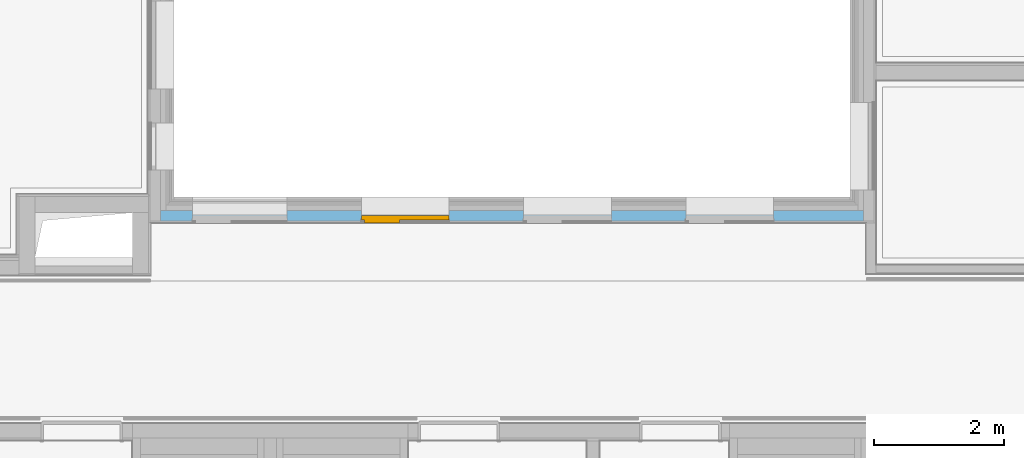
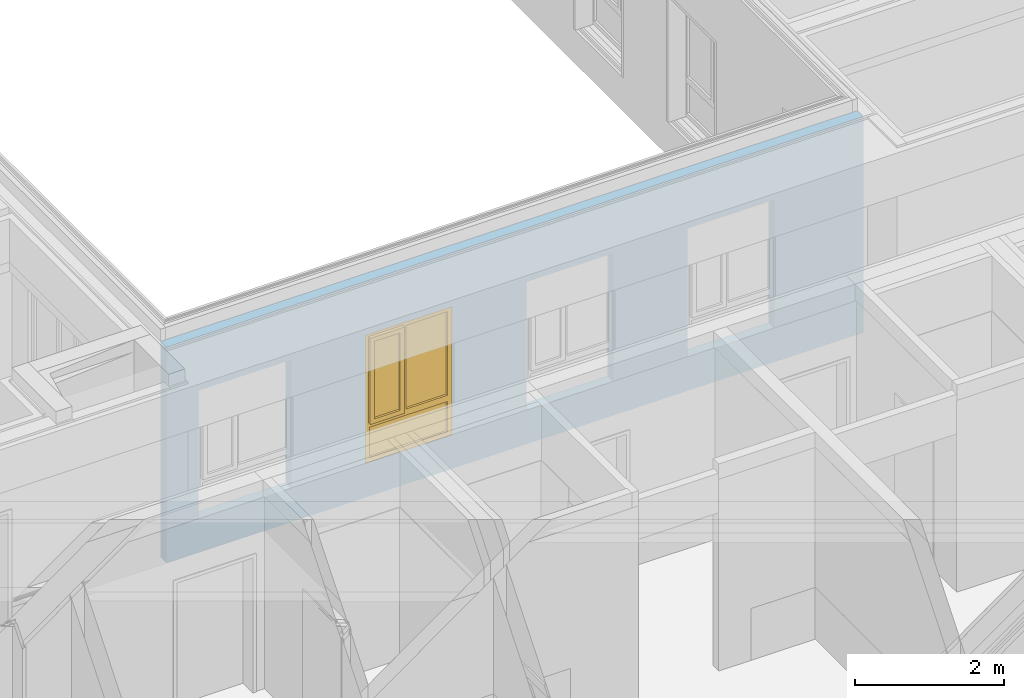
# One storey, part 125 of 222: 1 window, 4 openings, plus 1 element that does not belong to this part.
"""IFC4 building model written with IfcOpenShell, lengths in metres."""

from ifc_helpers import new_model, entity, si_unit, converted_unit, derived_unit, frame, frame_2d, origin, origin_with_axes, place, context, subcontext, project, spatial, polyline, rectangle, outline, extrude, closed_shell, open_shell, surface_model, source, transform, mapped, material, element, fill, save


model = new_model("IFC4")

# Units and contexts
model_context = context("Model", 3, precision=1e-05, world=origin())
body_context = subcontext(model_context, "Body", "Model", "MODEL_VIEW")
ifc_project = project(units=[si_unit("LENGTHUNIT", "METRE"), si_unit("AREAUNIT", "SQUARE_METRE"), si_unit("VOLUMEUNIT", "CUBIC_METRE"), si_unit("MASSUNIT", "GRAM", prefix="KILO"), converted_unit("PLANEANGLEUNIT", "DEGREE", entity("IfcPlaneAngleMeasure", 0.0174532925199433), si_unit("PLANEANGLEUNIT", "RADIAN"), dimensions=[0, 0, 0, 0, 0, 0, 0]), derived_unit("THERMALTRANSMITTANCEUNIT", [(si_unit("POWERUNIT", "WATT"), 1), (si_unit("THERMODYNAMICTEMPERATUREUNIT", "KELVIN"), -1), (si_unit("LENGTHUNIT", "METRE"), -2)]), derived_unit("VOLUMETRICFLOWRATEUNIT", [(si_unit("LENGTHUNIT", "METRE"), 3), (converted_unit("TIMEUNIT", "hour", entity("IfcTimeMeasure", 3600.0), si_unit("TIMEUNIT", "SECOND"), dimensions=[0, 0, 1, 0, 0, 0, 0]), -1), (si_unit("LENGTHUNIT", "METRE"), -1)])], contexts=[model_context])

# Site, building, storey
site_placement = place(None, origin())
site = spatial("IfcSite", under=ifc_project, at=site_placement, Name="Psychiatrie Neubau Wunstorf", CompositionType="ELEMENT")
building_placement = place(site_placement, origin())
building = spatial("IfcBuilding", under=site, at=building_placement, Name="Neubau H2 Stationsgebäude", CompositionType="ELEMENT")
storey_placement = place(building_placement, frame((0.0, 0.0, 3.6)))
storey = spatial("IfcBuildingStorey", under=building, at=storey_placement, Name="H2 Ebene +1", CompositionType="ELEMENT", Elevation=3.6)

# Wall, openings, window
ifc_material = material(Name="WA-DL")
wall_placement = place(storey_placement, frame((79.335, 8.45000000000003, 0.0), z_axis=(0.0, 0.0, 1.0), x_axis=(1.0, -6.71833574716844e-16, 0.0)))
wall = element("IfcWall", 1, at=wall_placement, inside=storey, material=ifc_material, context=body_context, shape_type="SweptSolid", body=[
    extrude(rectangle(XDim=10.83, YDim=0.16, at=frame_2d((5.415, 0.08), x_axis=(1.0, 0.0))), origin_with_axes(), (0.0, 0.0, 1.0), 3.55),
])
opening_1_placement = place(wall_placement, frame((1.9448371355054, 0.16, 0.55), z_axis=(0.0, -1.0, 0.0), x_axis=(0.0, 0.0, 1.0)))
element("IfcOpeningElement", 2, at=opening_1_placement, cuts=wall, Name="Fensteröffnung", ObjectType="Opening", context=body_context, shape_type="SweptSolid", body=[
    extrude(outline(polyline([(2.115, 1.45), (2.115, 0.0), (0.0, 0.0), (0.0, 1.45), (2.115, 1.45)])), origin_with_axes(), (0.0, 0.0, 1.0), 0.16),
])
opening_2_placement = place(wall_placement, frame((9.4447, 0.160000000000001, 0.55), z_axis=(0.0, -1.0, 0.0), x_axis=(0.0, 0.0, 1.0)))
element("IfcOpeningElement", 3, at=opening_2_placement, cuts=wall, Name="Fensteröffnung", ObjectType="Opening", context=body_context, shape_type="SweptSolid", body=[
    extrude(outline(polyline([(2.115, 1.35), (2.115, 0.0), (0.0, 0.0), (0.0, 1.35), (2.115, 1.35)])), origin_with_axes(), (0.0, 0.0, 1.0), 0.16),
])
opening_3_placement = place(wall_placement, frame((6.9447, 0.159999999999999, 0.55), z_axis=(0.0, -1.0, 0.0), x_axis=(0.0, 0.0, 1.0)))
element("IfcOpeningElement", 4, at=opening_3_placement, cuts=wall, Name="Fensteröffnung", ObjectType="Opening", context=body_context, shape_type="SweptSolid", body=[
    extrude(outline(polyline([(2.115, 1.35), (2.115, 0.0), (0.0, 0.0), (0.0, 1.35), (2.115, 1.35)])), origin_with_axes(), (0.0, 0.0, 1.0), 0.16),
])
opening_4_placement = place(wall_placement, frame((4.4447, 0.159999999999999, 0.55), z_axis=(0.0, -1.0, 0.0), x_axis=(0.0, 0.0, 1.0)))
opening_4 = element("IfcOpeningElement", 5, at=opening_4_placement, cuts=wall, Name="Fensteröffnung", ObjectType="Opening", context=body_context, shape_type="SweptSolid", body=[
    extrude(outline(polyline([(2.115, 1.35), (2.115, 0.0), (0.0, 0.0), (0.0, 1.35), (2.115, 1.35)])), origin_with_axes(), (0.0, 0.0, 1.0), 0.16),
])
shared_shape = source(origin_with_axes(), body_context, "Body", "SurfaceModel", [
    surface_model("IfcShellBasedSurfaceModel", [(0.0, 9.18421718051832e-06, 2.115), (0.07, 9.18421718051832e-06, 2.115), (0.07, 9.18421718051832e-06, 0.0), (0.0, 9.18421718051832e-06, 0.0), (0.0, 0.0700091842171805, 0.0), (0.07, 0.0700091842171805, 0.0), (0.07, 0.0700091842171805, 2.115), (0.0, 0.0700091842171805, 2.115)], [closed_shell([[[0, 1, 2, 3]], [[4, 5, 6, 7]], [[3, 4, 7, 0]], [[2, 5, 4, 3]], [[1, 6, 5, 2]], [[0, 7, 6, 1]]], orient=[[False], [False], [False], [False], [False], [False]])]),
    surface_model("IfcShellBasedSurfaceModel", [(1.28, 9.18421718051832e-06, 2.115), (1.35, 9.18421718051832e-06, 2.115), (1.35, 9.18421718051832e-06, 0.0), (1.28, 9.18421718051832e-06, 0.0), (1.28, 0.0700091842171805, 0.0), (1.35, 0.0700091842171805, 0.0), (1.35, 0.0700091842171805, 2.115), (1.28, 0.0700091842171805, 2.115)], [closed_shell([[[0, 1, 2, 3]], [[4, 5, 6, 7]], [[3, 4, 7, 0]], [[2, 5, 4, 3]], [[1, 6, 5, 2]], [[0, 7, 6, 1]]], orient=[[False], [False], [False], [False], [False], [False]])]),
    surface_model("IfcShellBasedSurfaceModel", [(0.07, 9.18421718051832e-06, 0.07), (1.28, 9.18421718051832e-06, 0.07), (1.28, 9.18421718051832e-06, 0.0), (0.07, 9.18421718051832e-06, 0.0), (0.07, 0.0700091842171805, 0.0), (1.28, 0.0700091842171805, 0.0), (1.28, 0.0700091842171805, 0.07), (0.07, 0.0700091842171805, 0.07)], [closed_shell([[[0, 1, 2, 3]], [[4, 5, 6, 7]], [[3, 4, 7, 0]], [[2, 5, 4, 3]], [[1, 6, 5, 2]], [[0, 7, 6, 1]]], orient=[[False], [False], [False], [False], [False], [False]])]),
    surface_model("IfcShellBasedSurfaceModel", [(0.07, 9.18421718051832e-06, 2.115), (1.28, 9.18421718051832e-06, 2.115), (1.28, 9.18421718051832e-06, 2.045), (0.07, 9.18421718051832e-06, 2.045), (0.07, 0.0700091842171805, 2.045), (1.28, 0.0700091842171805, 2.045), (1.28, 0.0700091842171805, 2.115), (0.07, 0.0700091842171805, 2.115)], [closed_shell([[[0, 1, 2, 3]], [[4, 5, 6, 7]], [[3, 4, 7, 0]], [[2, 5, 4, 3]], [[1, 6, 5, 2]], [[0, 7, 6, 1]]], orient=[[False], [False], [False], [False], [False], [False]])]),
    surface_model("IfcShellBasedSurfaceModel", [(0.07, 9.18421718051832e-06, 0.67), (1.28, 9.18421718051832e-06, 0.67), (1.28, 9.18421718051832e-06, 0.57), (0.07, 9.18421718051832e-06, 0.57), (0.07, 0.0700091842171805, 0.57), (1.28, 0.0700091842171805, 0.57), (1.28, 0.0700091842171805, 0.67), (0.07, 0.0700091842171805, 0.67)], [closed_shell([[[0, 1, 2, 3]], [[4, 5, 6, 7]], [[3, 4, 7, 0]], [[2, 5, 4, 3]], [[1, 6, 5, 2]], [[0, 7, 6, 1]]], orient=[[False], [False], [False], [False], [False], [False]])]),
    surface_model("IfcShellBasedSurfaceModel", [(0.07, 0.0350091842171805, 0.07), (0.07, 0.0350091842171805, 0.57), (1.28, 0.0350091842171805, 0.57), (1.28, 0.0350091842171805, 0.07)], [open_shell([[[0, 1, 2, 3]]], orient=[[False]])]),
    surface_model("IfcShellBasedSurfaceModel", [(0.565699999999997, 9.18421718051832e-06, 2.045), (0.635699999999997, 9.18421718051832e-06, 2.045), (0.635699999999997, 9.18421718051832e-06, 0.67), (0.565699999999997, 9.18421718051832e-06, 0.67), (0.565699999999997, 0.0700091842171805, 0.67), (0.635699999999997, 0.0700091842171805, 0.67), (0.635699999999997, 0.0700091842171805, 2.045), (0.565699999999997, 0.0700091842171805, 2.045)], [closed_shell([[[0, 1, 2, 3]], [[4, 5, 6, 7]], [[3, 4, 7, 0]], [[2, 5, 4, 3]], [[1, 6, 5, 2]], [[0, 7, 6, 1]]], orient=[[False], [False], [False], [False], [False], [False]])]),
    surface_model("IfcShellBasedSurfaceModel", [(0.05, -0.0499908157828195, 2.065), (0.12, -0.0499908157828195, 2.065), (0.12, -0.0499908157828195, 0.65), (0.05, -0.0499908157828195, 0.65), (0.05, 0.0200091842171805, 0.65), (0.12, 0.0200091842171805, 0.65), (0.12, 0.0200091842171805, 2.065), (0.05, 0.0200091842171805, 2.065)], [closed_shell([[[0, 1, 2, 3]], [[4, 5, 6, 7]], [[3, 4, 7, 0]], [[2, 5, 4, 3]], [[1, 6, 5, 2]], [[0, 7, 6, 1]]], orient=[[False], [False], [False], [False], [False], [False]])]),
    surface_model("IfcShellBasedSurfaceModel", [(0.515699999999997, -0.0499908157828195, 2.065), (0.585699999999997, -0.0499908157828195, 2.065), (0.585699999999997, -0.0499908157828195, 0.65), (0.515699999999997, -0.0499908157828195, 0.65), (0.515699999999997, 0.0200091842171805, 0.65), (0.585699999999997, 0.0200091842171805, 0.65), (0.585699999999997, 0.0200091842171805, 2.065), (0.515699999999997, 0.0200091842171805, 2.065)], [closed_shell([[[0, 1, 2, 3]], [[4, 5, 6, 7]], [[3, 4, 7, 0]], [[2, 5, 4, 3]], [[1, 6, 5, 2]], [[0, 7, 6, 1]]], orient=[[False], [False], [False], [False], [False], [False]])]),
    surface_model("IfcShellBasedSurfaceModel", [(0.12, -0.0499908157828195, 0.72), (0.515699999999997, -0.0499908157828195, 0.72), (0.515699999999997, -0.0499908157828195, 0.65), (0.12, -0.0499908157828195, 0.65), (0.12, 0.0200091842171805, 0.65), (0.515699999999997, 0.0200091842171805, 0.65), (0.515699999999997, 0.0200091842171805, 0.72), (0.12, 0.0200091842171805, 0.72)], [closed_shell([[[0, 1, 2, 3]], [[4, 5, 6, 7]], [[3, 4, 7, 0]], [[2, 5, 4, 3]], [[1, 6, 5, 2]], [[0, 7, 6, 1]]], orient=[[False], [False], [False], [False], [False], [False]])]),
    surface_model("IfcShellBasedSurfaceModel", [(0.12, -0.0499908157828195, 2.065), (0.515699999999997, -0.0499908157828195, 2.065), (0.515699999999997, -0.0499908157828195, 1.995), (0.12, -0.0499908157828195, 1.995), (0.12, 0.0200091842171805, 1.995), (0.515699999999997, 0.0200091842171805, 1.995), (0.515699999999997, 0.0200091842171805, 2.065), (0.12, 0.0200091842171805, 2.065)], [closed_shell([[[0, 1, 2, 3]], [[4, 5, 6, 7]], [[3, 4, 7, 0]], [[2, 5, 4, 3]], [[1, 6, 5, 2]], [[0, 7, 6, 1]]], orient=[[False], [False], [False], [False], [False], [False]])]),
    surface_model("IfcShellBasedSurfaceModel", [(0.635699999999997, 0.0350091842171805, 0.67), (0.635699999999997, 0.0350091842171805, 2.045), (1.28, 0.0350091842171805, 2.045), (1.28, 0.0350091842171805, 0.67)], [open_shell([[[0, 1, 2, 3]]], orient=[[False]])]),
    surface_model("IfcShellBasedSurfaceModel", [(0.12, -0.0149908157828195, 0.72), (0.12, -0.0149908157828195, 1.995), (0.515699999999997, -0.0149908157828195, 1.995), (0.515699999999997, -0.0149908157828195, 0.72)], [open_shell([[[0, 1, 2, 3]]], orient=[[False]])]),
])
window_placement = place(opening_4_placement, frame((0.0, 1.35, 0.146), z_axis=(1.0, 0.0, 0.0), x_axis=(0.0, -1.0, -6.71833574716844e-16)))
window = element("IfcWindow", 6, at=window_placement, inside=storey, Name="Fenster", OverallHeight=2.115, OverallWidth=1.35, PartitioningType="USERDEFINED", PredefinedType="WINDOW", context=body_context, shape_type="MappedRepresentation", body=[
    mapped(shared_shape, transform((0.0, 0.0, 0.0), x_axis=(1.0, 0.0, 0.0), y_axis=(0.0, 1.0, 0.0), z_axis=(0.0, 0.0, 1.0), scale=1.0)),
])
fill(opening_4, window)

save(model, "model.ifc")
